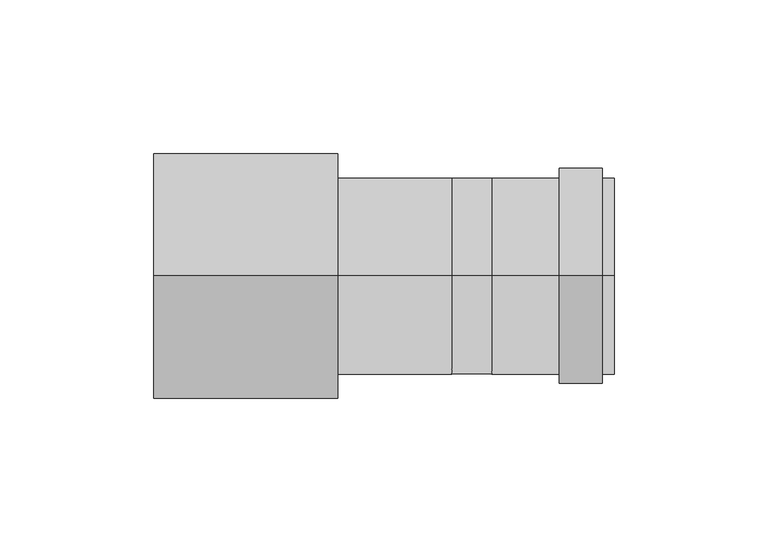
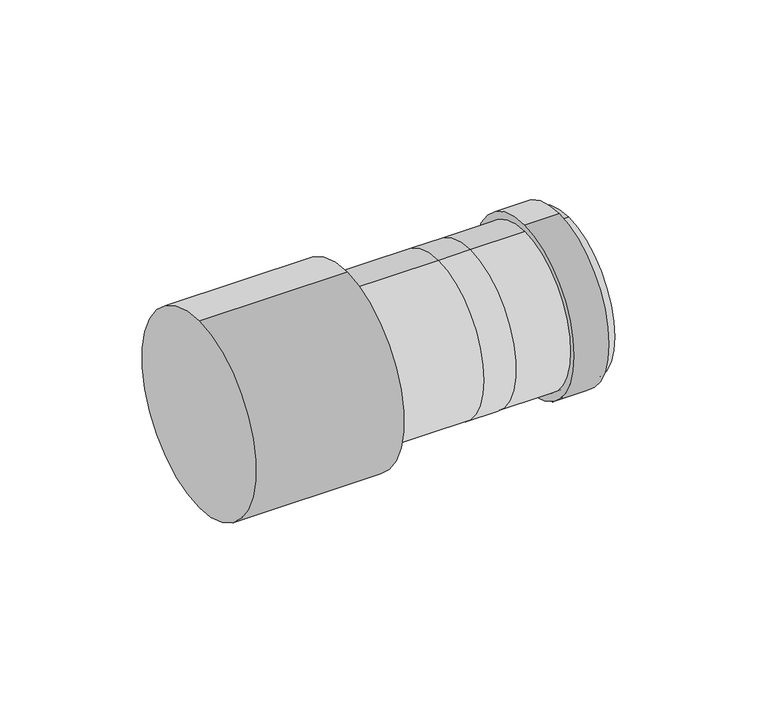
"""IFC4 building model written with IfcOpenShell, lengths in millimetres: duct fitting geometry, RSFen_DUF_UN_Twinline Reducer_M&G : ø080-100-150-200."""

from ifc_helpers import new_model, si_unit, point, frame, origin, origin_2d, place, context, project, spatial, polyline, circle_curve, trimmed, segment, composite_curve, outline, extrude, source, transform, mapped, element, save
from ifc_brep_helpers import plane_surface, cylinder_surface, revolved_surface, advanced_brep


def duct_fitting_6d300570(model_context):
    return source(origin(), model_context, "Body", "SolidModel", [
        advanced_brep(
        [(60.0, 0.0, 32.0), (60.0, 0.0, -32.0), (97.0, 0.0, -32.0), (97.0, 0.0, 32.0), (110.0, 0.0, 29.5), (110.0, 0.0, -29.5), (110.0, 0.0, 32.0), (110.0, 0.0, -32.0), (150.0, 0.0, 32.0), (150.0, 0.0, -32.0), (150.0, 0.0, -29.5), (150.0, 0.0, 29.5)],
        [
            (0, 1, circle_curve(frame((60.0, 0.0, 0.0), z_axis=(-1.0, 0.0, 0.0), x_axis=(0.0, 0.0, -1.0)), 32.0)),
            (1, 0, circle_curve(frame((60.0, 0.0, 0.0), z_axis=(-1.0, 0.0, 0.0), x_axis=(0.0, 0.0, -1.0)), 32.0)),
            (1, 2),
            (2, 3, circle_curve(frame((97.0, 0.0, 0.0), z_axis=(-1.0, 0.0, 0.0), x_axis=(0.0, 0.0, -1.0)), 32.0)),
            (3, 0),
            (3, 2, circle_curve(frame((97.0, 0.0, 0.0), z_axis=(-1.0, 0.0, 0.0), x_axis=(0.0, 0.0, -1.0)), 32.0)),
            (4, 5, circle_curve(frame((110.0, 0.0, 0.0), z_axis=(1.0, 0.0, 0.0), x_axis=(0.0, 0.0, 1.0)), 29.5)),
            (5, 4, circle_curve(frame((110.0, 0.0, 0.0), z_axis=(1.0, 0.0, 0.0), x_axis=(0.0, 0.0, 1.0)), 29.5)),
            (6, 3),
            (2, 7),
            (7, 6, circle_curve(frame((110.0, 0.0, 0.0), z_axis=(-1.0, 0.0, 0.0), x_axis=(0.0, 0.0, -1.0)), 32.0)),
            (6, 7, circle_curve(frame((110.0, 0.0, 0.0), z_axis=(-1.0, 0.0, 0.0), x_axis=(0.0, 0.0, -1.0)), 32.0)),
            (8, 9, circle_curve(frame((150.0, 0.0, 0.0), z_axis=(1.0, 0.0, 0.0), x_axis=(0.0, 0.0, -1.0)), 32.0)),
            (9, 8, circle_curve(frame((150.0, 0.0, 0.0), z_axis=(1.0, 0.0, 0.0), x_axis=(0.0, 0.0, -1.0)), 32.0)),
            (10, 11, circle_curve(frame((150.0, 0.0, 0.0), z_axis=(-1.0, 0.0, 0.0), x_axis=(0.0, 0.0, 1.0)), 29.5)),
            (11, 10, circle_curve(frame((150.0, 0.0, 0.0), z_axis=(-1.0, 0.0, 0.0), x_axis=(0.0, 0.0, 1.0)), 29.5)),
            (8, 6),
            (7, 9),
            (10, 5),
            (4, 11),
        ],
        [
            plane_surface(frame((60.0, 0.0, -32.0), z_axis=(-1.0, 0.0, 0.0), x_axis=(0.0, -1.0, 0.0))),
            cylinder_surface(frame((60.0, 0.0, 0.0), z_axis=(1.0, 0.0, 0.0), x_axis=(0.0, 0.0, -1.0)), 32.0),
            plane_surface(frame((110.0, 0.0, -32.0), z_axis=(1.0, 0.0, 0.0), x_axis=(0.0, 1.0, 0.0))),
            cylinder_surface(frame((97.0, 0.0, 0.0), z_axis=(1.0, 0.0, 0.0), x_axis=(0.0, 0.0, -1.0)), 32.0),
            plane_surface(frame((150.0, 0.0, -32.0), z_axis=(1.0, 0.0, 0.0), x_axis=(0.0, 1.0, 0.0))),
            cylinder_surface(frame((110.0, 0.0, 0.0), z_axis=(1.0, 0.0, 0.0), x_axis=(0.0, 0.0, -1.0)), 32.0),
            revolved_surface(polyline([(110.0, 0.0, 29.5), (150.0, 0.0, 29.5)]), (160.0, 0.0, 0.0), (-1.0, 0.0, 0.0)),
        ],
        [
            (0, [[1, 2]]),
            (1, [[-2, 3, 4, 5]]),
            (1, [[-1, -5, 6, -3]]),
            (2, [[7, 8]]),
            (3, [[9, -4, 10, 11]]),
            (3, [[-9, 12, -10, -6]]),
            (4, [[13, 14], [15, 16]]),
            (5, [[-13, 17, -11, 18]]),
            (5, [[-14, -18, -12, -17]]),
            (6, [[19, -7, 20, -15]]),
            (6, [[-19, -16, -20, -8]]),
        ],
    ),
        extrude(outline(composite_curve([segment(trimmed(circle_curve(origin_2d(), 35.0), [point((0.0, 35.0))], [point((0.0, -35.0))], False, "CARTESIAN"), True, "CONTINUOUS"), segment(trimmed(circle_curve(origin_2d(), 35.0), [point((0.0, -35.0))], [point((0.0, 35.0))], False, "CARTESIAN"), True, "CONTINUOUS")], self_intersect=False), holes=[composite_curve([segment(trimmed(circle_curve(origin_2d(), 32.0), [point((0.0, -32.0))], [point((0.0, 32.0))], True, "CARTESIAN"), True, "CONTINUOUS"), segment(trimmed(circle_curve(origin_2d(), 32.0), [point((0.0, 32.0))], [point((0.0, -32.0))], True, "CARTESIAN"), True, "CONTINUOUS")], self_intersect=False)]), frame((132.0, 0.0, 0.0), z_axis=(1.0, 0.0, 0.0), x_axis=(0.0, 1.0, 0.0)), (0.0, 0.0, 1.0), 14.0),
        extrude(outline(composite_curve([segment(trimmed(circle_curve(origin_2d(), 40.0), [point((0.0, -40.0))], [point((0.0, 40.0))], False, "CARTESIAN"), True, "CONTINUOUS"), segment(trimmed(circle_curve(origin_2d(), 40.0), [point((0.0, 40.0))], [point((0.0, -40.0))], False, "CARTESIAN"), True, "CONTINUOUS")], self_intersect=False)), frame((0.0, 0.0, 0.0), z_axis=(1.0, 0.0, 0.0), x_axis=(0.0, 1.0, 0.0)), (0.0, 0.0, 1.0), 60.0),
    ])


if __name__ == "__main__":
    model = new_model("IFC4")
    model_context = context("Model", 3, world=origin())
    ifc_project = project(units=[si_unit("LENGTHUNIT", "METRE", prefix="MILLI")], contexts=[model_context])
    site = spatial("IfcSite", under=ifc_project)
    building = spatial("IfcBuilding", under=site)
    placement = place(None, origin())
    duct_fitting_shape = duct_fitting_6d300570(model_context)
    element("IfcDuctFitting", 1, ObjectType="RSFen_DUF_UN_Twinline Reducer_M&G : ø080-100-150-200", at=placement, inside=building, context=model_context, shape_type="MappedRepresentation", body=[
        mapped(duct_fitting_shape, transform((0.0, 0.0, 0.0), x_axis=(1.0, 0.0, 0.0), y_axis=(0.0, 1.0, 0.0), z_axis=(0.0, 0.0, 1.0))),
    ])
    save(model, "model.ifc")
